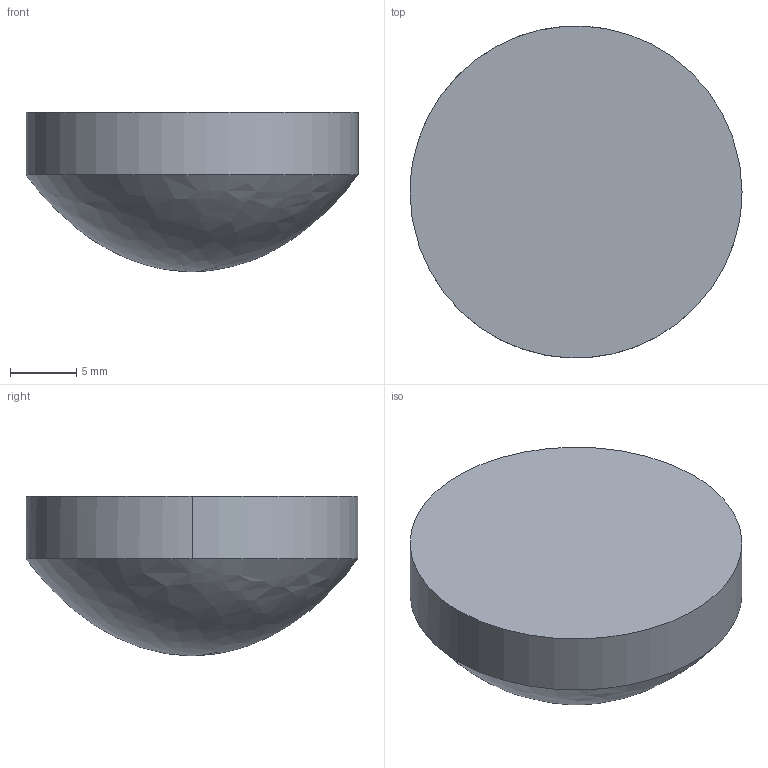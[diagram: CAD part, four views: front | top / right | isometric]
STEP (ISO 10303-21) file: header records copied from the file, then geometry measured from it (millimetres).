
FILE_DESCRIPTION ((), '1');
FILE_NAME ('\\fileserver\Daten\Applikationen\Optikdesign\SPA-Design\aktuelle SPA-Designs\Linsenkataloge - 2016-Juni\Zemax\AFL\AFL25-25.STP', '2016-05-24T14:15:08', ('Unknown'), ('Unknown'), 'HarmonyWare STEP v2.0.1', 'HarmonyWare Translators', '');
FILE_SCHEMA (('CONFIG_CONTROL_DESIGN'));
Length unit declared in the file: millimetre
Products named in the file (1): NONE
Bounding box: 25 x 24.98 x 12 mm (x, y, z)
Volume: 4192.3 mm3; surface area: 1503.8 mm2
Topology: 1 solids, 1 shells, 4 faces, 9 edges, 6 vertices
Faces by surface type: cylinder 2, bspline 1, plane 1
Entity records: 325 total; most frequent: CARTESIAN_POINT 174, ORIENTED_EDGE 16, EDGE_CURVE 8, PERSON 8, ORGANIZATION 8, PERSON_AND_ORGANIZATION 8, VERTEX_POINT 6, DIRECTION 6
